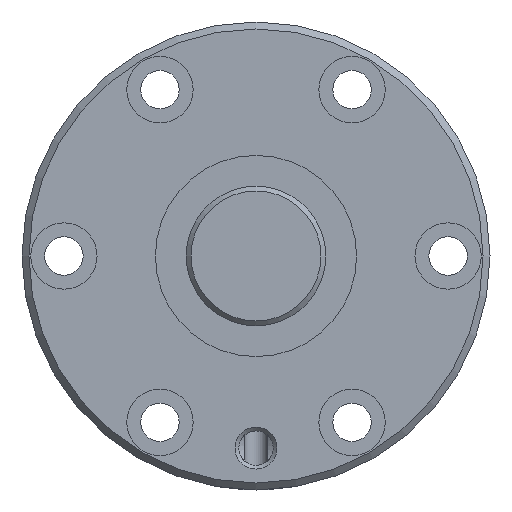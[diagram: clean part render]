
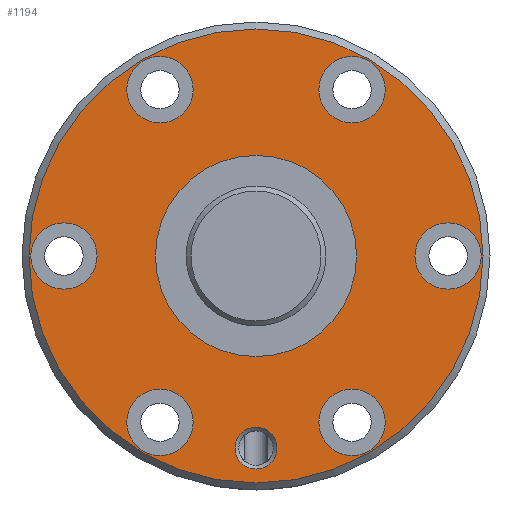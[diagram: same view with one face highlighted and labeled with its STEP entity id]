
A CAD part, left-side view. The second image highlights one B-rep face of the part: STEP entity #1194.
In plain terms, the highlighted planar face has unit normal (-1, 0, 0).
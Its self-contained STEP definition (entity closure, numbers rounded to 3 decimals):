
#204=ORIENTED_EDGE('',*,*,#489,.T.);
#205=ORIENTED_EDGE('',*,*,#490,.T.);
#206=ORIENTED_EDGE('',*,*,#491,.T.);
#207=ORIENTED_EDGE('',*,*,#492,.T.);
#208=ORIENTED_EDGE('',*,*,#493,.T.);
#209=ORIENTED_EDGE('',*,*,#494,.T.);
#210=ORIENTED_EDGE('',*,*,#495,.T.);
#211=ORIENTED_EDGE('',*,*,#496,.T.);
#212=ORIENTED_EDGE('',*,*,#488,.F.);
#488=EDGE_CURVE('',#634,#634,#722,.T.);
#489=EDGE_CURVE('',#635,#635,#723,.T.);
#490=EDGE_CURVE('',#636,#636,#724,.F.);
#491=EDGE_CURVE('',#637,#637,#725,.T.);
#492=EDGE_CURVE('',#638,#638,#726,.T.);
#493=EDGE_CURVE('',#639,#639,#727,.T.);
#494=EDGE_CURVE('',#640,#640,#728,.T.);
#495=EDGE_CURVE('',#641,#641,#729,.T.);
#496=EDGE_CURVE('',#642,#642,#730,.T.);
#634=VERTEX_POINT('',#2087);
#635=VERTEX_POINT('',#2090);
#636=VERTEX_POINT('',#2092);
#637=VERTEX_POINT('',#2094);
#638=VERTEX_POINT('',#2096);
#639=VERTEX_POINT('',#2098);
#640=VERTEX_POINT('',#2100);
#641=VERTEX_POINT('',#2102);
#642=VERTEX_POINT('',#2104);
#722=CIRCLE('',#1320,32.5);
#723=CIRCLE('',#1322,14.4);
#724=CIRCLE('',#1323,4.75);
#725=CIRCLE('',#1324,3.);
#726=CIRCLE('',#1325,4.75);
#727=CIRCLE('',#1326,4.75);
#728=CIRCLE('',#1327,4.75);
#729=CIRCLE('',#1328,4.75);
#730=CIRCLE('',#1329,4.75);
#837=EDGE_LOOP('',(#204));
#838=EDGE_LOOP('',(#205));
#839=EDGE_LOOP('',(#206));
#840=EDGE_LOOP('',(#207));
#841=EDGE_LOOP('',(#208));
#842=EDGE_LOOP('',(#209));
#843=EDGE_LOOP('',(#210));
#844=EDGE_LOOP('',(#211));
#845=EDGE_LOOP('',(#212));
#1003=FACE_BOUND('',#837,.T.);
#1004=FACE_BOUND('',#838,.T.);
#1005=FACE_BOUND('',#839,.T.);
#1006=FACE_BOUND('',#840,.T.);
#1007=FACE_BOUND('',#841,.T.);
#1008=FACE_BOUND('',#842,.T.);
#1009=FACE_BOUND('',#843,.T.);
#1010=FACE_BOUND('',#844,.T.);
#1011=FACE_BOUND('',#845,.T.);
#1145=PLANE('',#1321);
#1194=ADVANCED_FACE('',(#1003,#1004,#1005,#1006,#1007,#1008,#1009,#1010,
#1011),#1145,.T.);
#1320=AXIS2_PLACEMENT_3D('',#2086,#1553,#1554);
#1321=AXIS2_PLACEMENT_3D('',#2088,#1555,#1556);
#1322=AXIS2_PLACEMENT_3D('',#2089,#1557,#1558);
#1323=AXIS2_PLACEMENT_3D('',#2091,#1559,#1560);
#1324=AXIS2_PLACEMENT_3D('',#2093,#1561,#1562);
#1325=AXIS2_PLACEMENT_3D('',#2095,#1563,#1564);
#1326=AXIS2_PLACEMENT_3D('',#2097,#1565,#1566);
#1327=AXIS2_PLACEMENT_3D('',#2099,#1567,#1568);
#1328=AXIS2_PLACEMENT_3D('',#2101,#1569,#1570);
#1329=AXIS2_PLACEMENT_3D('',#2103,#1571,#1572);
#1553=DIRECTION('',(1.,0.,0.));
#1554=DIRECTION('',(0.,0.,-1.));
#1555=DIRECTION('',(-1.,0.,0.));
#1556=DIRECTION('',(0.,0.,1.));
#1557=DIRECTION('',(1.,0.,0.));
#1558=DIRECTION('',(0.,0.,-1.));
#1559=DIRECTION('',(-1.,0.,0.));
#1560=DIRECTION('',(0.,0.,1.));
#1561=DIRECTION('',(1.,0.,0.));
#1562=DIRECTION('',(0.,0.,-1.));
#1563=DIRECTION('',(1.,0.,0.));
#1564=DIRECTION('',(0.,0.,-1.));
#1565=DIRECTION('',(1.,0.,0.));
#1566=DIRECTION('',(0.,0.,-1.));
#1567=DIRECTION('',(1.,0.,0.));
#1568=DIRECTION('',(0.,0.,-1.));
#1569=DIRECTION('',(1.,0.,0.));
#1570=DIRECTION('',(0.,0.,-1.));
#1571=DIRECTION('',(1.,0.,0.));
#1572=DIRECTION('',(0.,0.,-1.));
#2086=CARTESIAN_POINT('',(0.,0.,0.));
#2087=CARTESIAN_POINT('',(0.,0.,-32.5));
#2088=CARTESIAN_POINT('',(0.,32.5,0.));
#2089=CARTESIAN_POINT('',(0.,0.,0.));
#2090=CARTESIAN_POINT('',(0.,0.,-14.4));
#2091=CARTESIAN_POINT('',(0.,27.5,0.));
#2092=CARTESIAN_POINT('',(0.,27.5,4.75));
#2093=CARTESIAN_POINT('',(0.,0.,-27.5));
#2094=CARTESIAN_POINT('',(0.,0.,-30.5));
#2095=CARTESIAN_POINT('',(0.,13.75,23.816));
#2096=CARTESIAN_POINT('',(0.,13.75,19.066));
#2097=CARTESIAN_POINT('',(0.,-13.75,-23.816));
#2098=CARTESIAN_POINT('',(0.,-13.75,-28.566));
#2099=CARTESIAN_POINT('',(0.,-13.75,23.816));
#2100=CARTESIAN_POINT('',(0.,-13.75,19.066));
#2101=CARTESIAN_POINT('',(0.,13.75,-23.816));
#2102=CARTESIAN_POINT('',(0.,13.75,-28.566));
#2103=CARTESIAN_POINT('',(0.,-27.5,0.));
#2104=CARTESIAN_POINT('',(0.,-27.5,-4.75));
